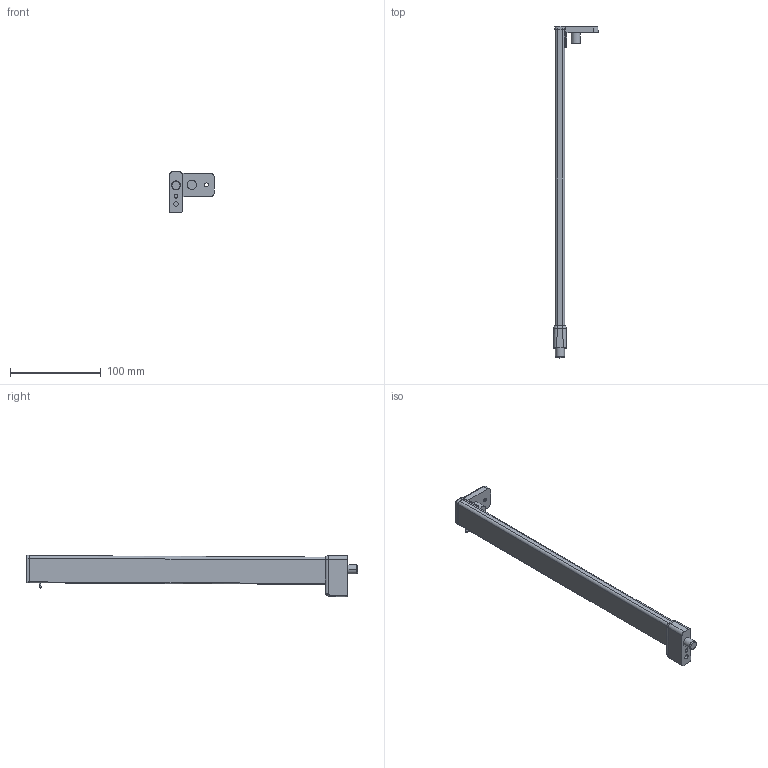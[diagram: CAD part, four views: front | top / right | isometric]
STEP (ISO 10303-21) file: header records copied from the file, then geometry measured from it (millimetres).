
FILE_DESCRIPTION (( 'STEP AP214' ), '1' );
FILE_NAME ('_2S_REL_7606_NL350_LI.step', '2010-07-01T14:41:44', ( 'grass' ), ( '' ), 'SwSTEP 2.0', 'SolidWorks 2009', '' );
FILE_SCHEMA (( 'AUTOMOTIVE_DESIGN' ));
Length unit declared in the file: millimetre
Products named in the file (1): _2S_REL_7606_NL350_LI
Bounding box: 49.25 x 365.5 x 45.4 mm (x, y, z)
Volume: 122987.2 mm3; surface area: 33689.7 mm2
Topology: 2 solids, 2 shells, 120 faces, 292 edges, 178 vertices
Faces by surface type: cylinder 58, plane 40, bspline 10, torus 6, cone 4, sphere 2
Entity records: 4528 total; most frequent: CARTESIAN_POINT 1803, ORIENTED_EDGE 580, DIRECTION 546, EDGE_CURVE 290, AXIS2_PLACEMENT_3D 203, VERTEX_POINT 178, VECTOR 140, LINE 140
